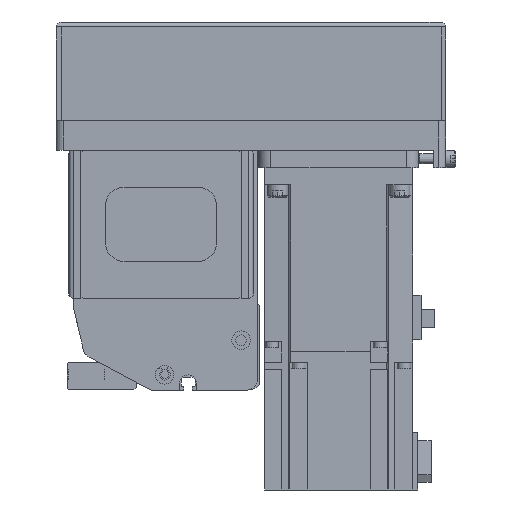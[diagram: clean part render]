
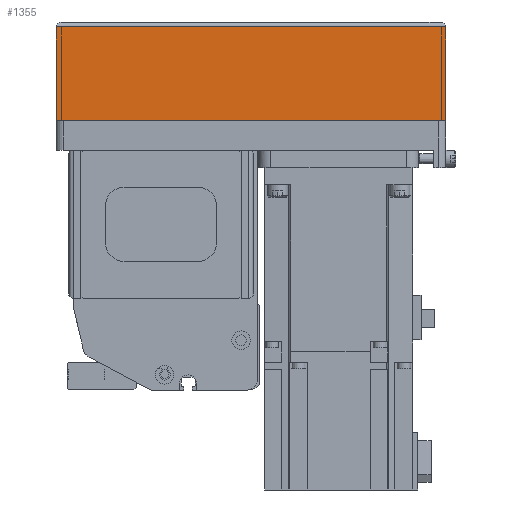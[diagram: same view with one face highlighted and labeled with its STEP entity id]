
A CAD part, left-side view. The second image highlights one B-rep face of the part: STEP entity #1355.
In plain terms, the highlighted planar face has unit normal (-1, 0, 0) as drawn and (0, -1, 0) by its records, which use the part's own axes.
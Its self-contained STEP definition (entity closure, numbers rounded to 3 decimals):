
#1355 = ADVANCED_FACE( '', ( #3604 ), #3605, .T. );
#3604 = FACE_OUTER_BOUND( '', #7097, .T. );
#3605 = PLANE( '', #7098 );
#7097 = EDGE_LOOP( '', ( #11016, #11017, #11018, #11019 ) );
#7098 = AXIS2_PLACEMENT_3D( '', #11020, #11021, #11022 );
#11016 = ORIENTED_EDGE( '', *, *, #19996, .F. );
#11017 = ORIENTED_EDGE( '', *, *, #19997, .F. );
#11018 = ORIENTED_EDGE( '', *, *, #19998, .T. );
#11019 = ORIENTED_EDGE( '', *, *, #19999, .T. );
#11020 = CARTESIAN_POINT( '', ( -158., -39., -12.1 ) );
#11021 = DIRECTION( '', ( 0., -1., 0. ) );
#11022 = DIRECTION( '', ( 0., 0., -1. ) );
#19996 = EDGE_CURVE( '', #23906, #23907, #23908, .T. );
#19997 = EDGE_CURVE( '', #23909, #23906, #23910, .T. );
#19998 = EDGE_CURVE( '', #23909, #23911, #23912, .T. );
#19999 = EDGE_CURVE( '', #23911, #23907, #23913, .T. );
#23906 = VERTEX_POINT( '', #29639 );
#23907 = VERTEX_POINT( '', #29640 );
#23908 = LINE( '', #29641, #29642 );
#23909 = VERTEX_POINT( '', #29643 );
#23910 = LINE( '', #29644, #29645 );
#23911 = VERTEX_POINT( '', #29646 );
#23912 = LINE( '', #29647, #29648 );
#23913 = LINE( '', #29649, #29650 );
#29639 = CARTESIAN_POINT( '', ( 0., -39., -12.1 ) );
#29640 = CARTESIAN_POINT( '', ( 0., -39., -50. ) );
#29641 = CARTESIAN_POINT( '', ( 0., -39., -12.1 ) );
#29642 = VECTOR( '', #37191, 1000. );
#29643 = CARTESIAN_POINT( '', ( -158., -39., -12.1 ) );
#29644 = CARTESIAN_POINT( '', ( -158., -39., -12.1 ) );
#29645 = VECTOR( '', #37192, 1000. );
#29646 = CARTESIAN_POINT( '', ( -158., -39., -50. ) );
#29647 = CARTESIAN_POINT( '', ( -158., -39., -12.1 ) );
#29648 = VECTOR( '', #37193, 1000. );
#29649 = CARTESIAN_POINT( '', ( -158., -39., -50. ) );
#29650 = VECTOR( '', #37194, 1000. );
#37191 = DIRECTION( '', ( 0., 0., -1. ) );
#37192 = DIRECTION( '', ( 1., 0., 0. ) );
#37193 = DIRECTION( '', ( 0., 0., -1. ) );
#37194 = DIRECTION( '', ( 1., 0., 0. ) );
